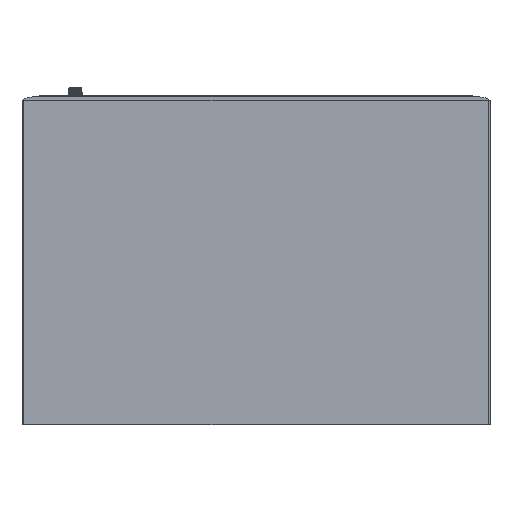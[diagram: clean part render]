
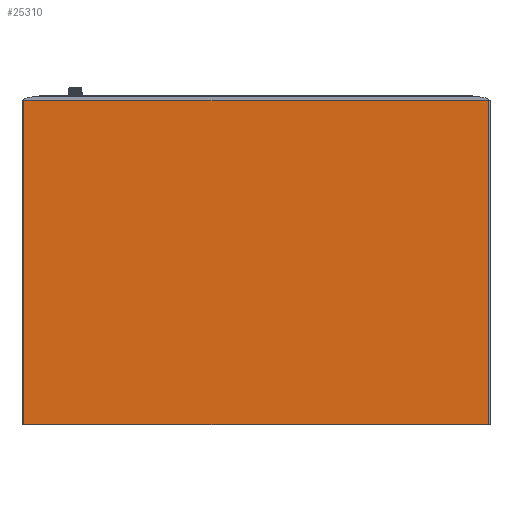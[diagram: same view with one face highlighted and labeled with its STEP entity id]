
A CAD part, front view. The second image highlights one B-rep face of the part: STEP entity #25310.
In plain terms, the highlighted planar face has unit normal (0, -1, 0).
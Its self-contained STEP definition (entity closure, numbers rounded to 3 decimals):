
#1552=PLANE('',#26976);
#2591=FACE_OUTER_BOUND('',#4234,.T.);
#4234=EDGE_LOOP('',(#17852,#17853,#17854,#17855));
#6460=LINE('',#35963,#8662);
#6465=LINE('',#35992,#8667);
#6466=LINE('',#35995,#8668);
#6467=LINE('',#35996,#8669);
#8662=VECTOR('',#29237,10.);
#8667=VECTOR('',#29268,10.);
#8668=VECTOR('',#29271,10.);
#8669=VECTOR('',#29272,10.);
#11681=VERTEX_POINT('',#35960);
#11682=VERTEX_POINT('',#35962);
#11693=VERTEX_POINT('',#35990);
#11694=VERTEX_POINT('',#35994);
#14243=EDGE_CURVE('',#11681,#11682,#6460,.T.);
#14258=EDGE_CURVE('',#11682,#11693,#6465,.T.);
#14259=EDGE_CURVE('',#11694,#11681,#6466,.T.);
#14260=EDGE_CURVE('',#11693,#11694,#6467,.T.);
#17852=ORIENTED_EDGE('',*,*,#14258,.F.);
#17853=ORIENTED_EDGE('',*,*,#14243,.F.);
#17854=ORIENTED_EDGE('',*,*,#14259,.F.);
#17855=ORIENTED_EDGE('',*,*,#14260,.F.);
#25310=ADVANCED_FACE('',(#2591),#1552,.T.);
#26976=AXIS2_PLACEMENT_3D('',#35993,#29269,#29270);
#29237=DIRECTION('',(1.,0.,0.));
#29268=DIRECTION('',(0.,0.,-1.));
#29269=DIRECTION('center_axis',(0.,-1.,0.));
#29270=DIRECTION('ref_axis',(0.,0.,-1.));
#29271=DIRECTION('',(0.,0.,1.));
#29272=DIRECTION('',(-1.,0.,0.));
#35960=CARTESIAN_POINT('',(-268.,0.,374.6));
#35962=CARTESIAN_POINT('',(268.,0.,374.6));
#35963=CARTESIAN_POINT('',(0.,0.,374.6));
#35990=CARTESIAN_POINT('',(268.,0.,0.));
#35992=CARTESIAN_POINT('',(268.,0.,280.95));
#35993=CARTESIAN_POINT('Origin',(0.,0.,374.6));
#35994=CARTESIAN_POINT('',(-268.,0.,0.));
#35995=CARTESIAN_POINT('',(-268.,0.,280.95));
#35996=CARTESIAN_POINT('',(0.,0.,0.));
